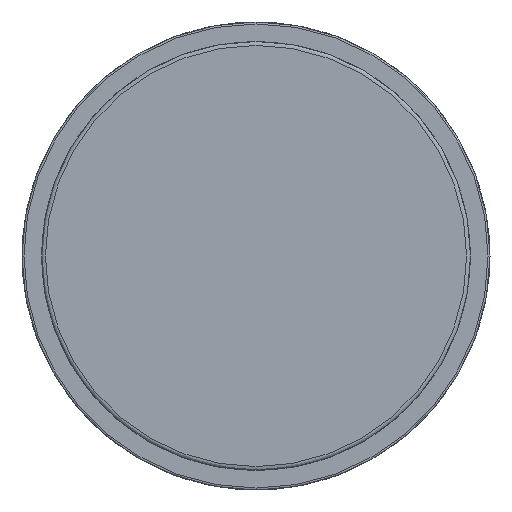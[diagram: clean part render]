
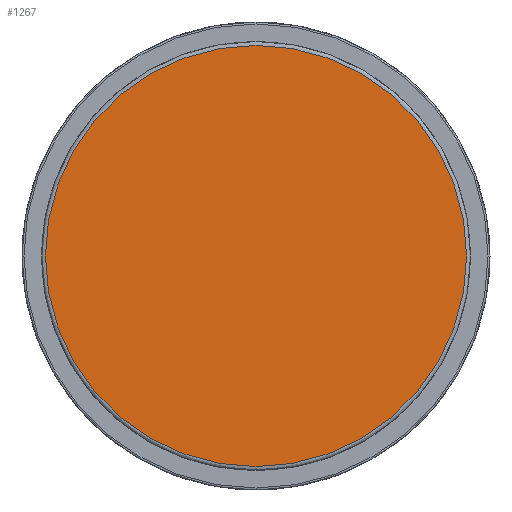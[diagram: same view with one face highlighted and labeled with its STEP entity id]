
A CAD part, left-side view. The second image highlights one B-rep face of the part: STEP entity #1267.
In plain terms, the highlighted planar face has unit normal (-1, 0, 0).
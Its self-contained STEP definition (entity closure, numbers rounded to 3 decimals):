
#1242=CARTESIAN_POINT('',(-528.136,-554.11,66.));
#1243=DIRECTION('',(-1.0,0.0,0.0));
#1244=DIRECTION('',(0.0,1.0,0.0));
#1245=AXIS2_PLACEMENT_3D('',#1242,#1243,#1244);
#1246=PLANE('',#1245);
#1247=CARTESIAN_POINT('',(-528.136,-434.109,0.));
#1248=VERTEX_POINT('',#1247);
#1249=CARTESIAN_POINT('',(-528.136,-542.109,0.));
#1250=VERTEX_POINT('',#1249);
#1251=CARTESIAN_POINT('',(-528.136,-488.109,0.));
#1252=DIRECTION('',(-1.0,0.0,0.0));
#1253=DIRECTION('',(0.0,1.0,0.0));
#1254=AXIS2_PLACEMENT_3D('',#1251,#1252,#1253);
#1255=CIRCLE('',#1254,54.0);
#1256=EDGE_CURVE('',#1248,#1250,#1255,.T.);
#1257=ORIENTED_EDGE('',*,*,#1256,.T.);
#1258=CARTESIAN_POINT('',(-528.136,-488.109,0.));
#1259=DIRECTION('',(-1.0,0.0,0.0));
#1260=DIRECTION('',(0.0,1.0,0.0));
#1261=AXIS2_PLACEMENT_3D('',#1258,#1259,#1260);
#1262=CIRCLE('',#1261,54.0);
#1263=EDGE_CURVE('',#1250,#1248,#1262,.T.);
#1264=ORIENTED_EDGE('',*,*,#1263,.T.);
#1265=EDGE_LOOP('',(#1257,#1264));
#1266=FACE_OUTER_BOUND('',#1265,.T.);
#1267=ADVANCED_FACE('',(#1266),#1246,.T.);
